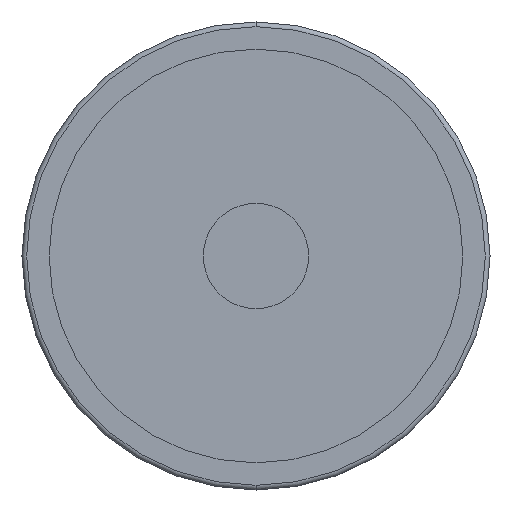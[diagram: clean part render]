
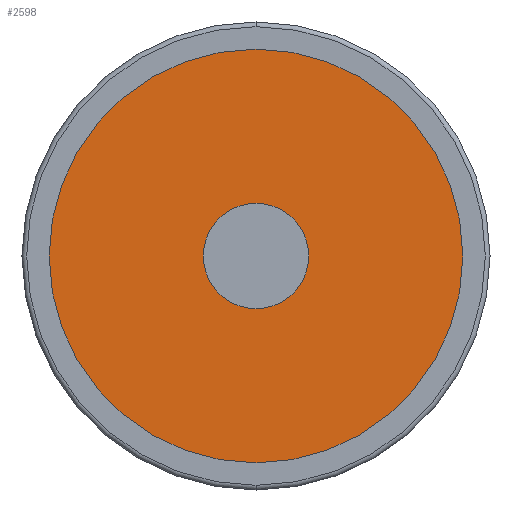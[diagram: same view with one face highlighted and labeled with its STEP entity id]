
A CAD part, front view. The second image highlights one B-rep face of the part: STEP entity #2598.
In plain terms, the highlighted planar face has unit normal (0, -1, 0).
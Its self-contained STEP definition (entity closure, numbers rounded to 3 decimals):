
#28 = PLANE ( 'NONE',  #203 ) ;
#102 = VERTEX_POINT ( 'NONE', #2981 ) ;
#136 = DIRECTION ( 'NONE',  ( 1., 0., 0. ) ) ;
#151 = CIRCLE ( 'NONE', #1712, 10.25 ) ;
#203 = AXIS2_PLACEMENT_3D ( 'NONE', #1572, #1320, #2033 ) ;
#246 = EDGE_CURVE ( 'NONE', #315, #102, #262, .T. ) ;
#262 = CIRCLE ( 'NONE', #2384, 44.3 ) ;
#315 = VERTEX_POINT ( 'NONE', #2391 ) ;
#340 = CARTESIAN_POINT ( 'NONE',  ( 0., 4.5, 0. ) ) ;
#358 = CARTESIAN_POINT ( 'NONE',  ( 0., 4.5, 0. ) ) ;
#622 = EDGE_CURVE ( 'NONE', #1994, #2190, #151, .T. ) ;
#796 = DIRECTION ( 'NONE',  ( 1., 0., 0. ) ) ;
#860 = CARTESIAN_POINT ( 'NONE',  ( -10.25, 4.5, 0. ) ) ;
#947 = DIRECTION ( 'NONE',  ( 1., 0., 0. ) ) ;
#985 = AXIS2_PLACEMENT_3D ( 'NONE', #2362, #1857, #136 ) ;
#1151 = EDGE_LOOP ( 'NONE', ( #2365, #2051 ) ) ;
#1180 = ORIENTED_EDGE ( 'NONE', *, *, #2017, .F. ) ;
#1198 = DIRECTION ( 'NONE',  ( 1., 0., 0. ) ) ;
#1301 = DIRECTION ( 'NONE',  ( 0., -1., 0. ) ) ;
#1320 = DIRECTION ( 'NONE',  ( 0., -1., 0. ) ) ;
#1333 = DIRECTION ( 'NONE',  ( 0., -1., 0. ) ) ;
#1552 = CARTESIAN_POINT ( 'NONE',  ( 0., 4.5, 0. ) ) ;
#1572 = CARTESIAN_POINT ( 'NONE',  ( -44.3, 4.5, 0. ) ) ;
#1704 = AXIS2_PLACEMENT_3D ( 'NONE', #1552, #1301, #796 ) ;
#1712 = AXIS2_PLACEMENT_3D ( 'NONE', #340, #1333, #947 ) ;
#1799 = FACE_OUTER_BOUND ( 'NONE', #1151, .T. ) ;
#1857 = DIRECTION ( 'NONE',  ( 0., -1., 0. ) ) ;
#1894 = EDGE_CURVE ( 'NONE', #102, #315, #2113, .T. ) ;
#1916 = ORIENTED_EDGE ( 'NONE', *, *, #622, .F. ) ;
#1994 = VERTEX_POINT ( 'NONE', #860 ) ;
#2017 = EDGE_CURVE ( 'NONE', #2190, #1994, #3120, .T. ) ;
#2033 = DIRECTION ( 'NONE',  ( 1., 0., 0. ) ) ;
#2051 = ORIENTED_EDGE ( 'NONE', *, *, #246, .T. ) ;
#2113 = CIRCLE ( 'NONE', #1704, 44.3 ) ;
#2190 = VERTEX_POINT ( 'NONE', #2906 ) ;
#2255 = FACE_BOUND ( 'NONE', #3077, .T. ) ;
#2338 = DIRECTION ( 'NONE',  ( 0., -1., 0. ) ) ;
#2362 = CARTESIAN_POINT ( 'NONE',  ( 0., 4.5, 0. ) ) ;
#2365 = ORIENTED_EDGE ( 'NONE', *, *, #1894, .T. ) ;
#2384 = AXIS2_PLACEMENT_3D ( 'NONE', #358, #2338, #1198 ) ;
#2391 = CARTESIAN_POINT ( 'NONE',  ( 44.3, 4.5, 0. ) ) ;
#2598 = ADVANCED_FACE ( 'NONE', ( #1799, #2255 ), #28, .T. ) ;
#2906 = CARTESIAN_POINT ( 'NONE',  ( 10.25, 4.5, 0. ) ) ;
#2981 = CARTESIAN_POINT ( 'NONE',  ( -44.3, 4.5, 0. ) ) ;
#3077 = EDGE_LOOP ( 'NONE', ( #1180, #1916 ) ) ;
#3120 = CIRCLE ( 'NONE', #985, 10.25 ) ;
